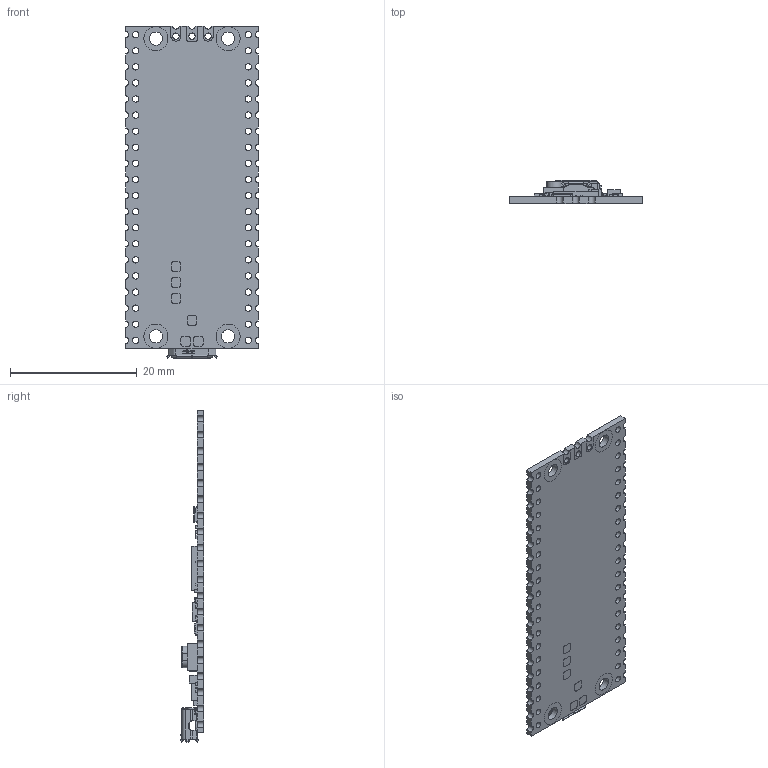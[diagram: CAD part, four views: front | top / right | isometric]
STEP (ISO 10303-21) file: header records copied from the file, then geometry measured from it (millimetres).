
FILE_DESCRIPTION(/* description */ (''),/* implementation_level */ '2;1');
FILE_NAME(/* name */ 'Pico.step',/* time_stamp */ '2024-01-13T11:22:08+01:00',/* author */ (''),/* organization */ (''),/* preprocessor_version */ 'ST-DEVELOPER v20',/* originating_system */ 'Autodesk Translation Framework v12.14.0.127',/* authorisation */ '');
FILE_SCHEMA (('AUTOMOTIVE_DESIGN { 1 0 10303 214 3 1 1 }'));
Products named in the file (45): Pico; PCB, Raspberry Pi Pico-R3; MicroUSB Port, Raspberry Pi Pico-R3; U2, RT6150B-33GQW, Buck Boost Converter, Raspberry Pi Pico-R3; SMD Resistor, Configurable, Raspberry Pi Pico-R3_R5; SW1, Tact Switch, Raspberry Pi Pico-R3; D1, Diode, Schottky, Raspberry Pi Pico-R3; D2, QSME-C194, LED, Raspberry Pi Pico-R3; U3, W25Q16JVUXIQ, Serial NOR Flash 16 Mbit, Raspberry Pi Pico-R3; Q1, MOSFET, DMG1012T, Raspberry Pi Pico-R3; SMD Resistor, Configurable, Raspberry Pi Pico-R3_R2; SMD Resistor, Configurable, Raspberry Pi Pico-R3_R3; SMD Resistor, Configurable, Raspberry Pi Pico-R3_R1; RP2040 Microcontroller, Raspberry Pi Pico-R3; L1, Inductor, Raspberry Pi Pico-R3; X1, X12M000000S096, 12 Mhz Crystal Resonator, Raspberry Pi Pico-R3; SMD Resistor, Configurable, Raspberry Pi Pico-R3_R4; SMD Resistor, Configurable, Raspberry Pi Pico-R3_R6; SMD Resistor, Configurable, Raspberry Pi Pico-R3_R7; SMD Resistor, Configurable, Raspberry Pi Pico-R3_R9; SMD Resistor, Configurable, Raspberry Pi Pico-R3_R10; SMD Resistor, Configurable, Raspberry Pi Pico-R3_R11; SMD Resistor, Configurable, Raspberry Pi Pico-R3_R12; SMD Resistor, Configurable, Raspberry Pi Pico-R3_R8; SMD Resistor, Configurable, Raspberry Pi Pico-R3_R13; SMD Resistor, Configurable, Raspberry Pi Pico-R3_R14; SMD Resistor, Configurable, Raspberry Pi Pico-R3_R15; SMD Capacitor, Configurable, Raspberry Pi Pico-R3_C1; SMD Capacitor, Configurable, Raspberry Pi Pico-R3_C13; SMD Capacitor, Configurable, Raspberry Pi Pico-R3_C5; SMD Capacitor, Configurable, Raspberry Pi Pico-R3_C8; SMD Capacitor, Configurable, Raspberry Pi Pico-R3_C4; SMD Capacitor, Configurable, Raspberry Pi Pico-R3_C3; SMD Capacitor, Configurable, Raspberry Pi Pico-R3_C16; SMD Capacitor, Configurable, Raspberry Pi Pico-R3_C11; SMD Capacitor, Configurable, Raspberry Pi Pico-R3_C17; SMD Capacitor, Configurable, Raspberry Pi Pico-R3_C18; SMD Capacitor, Configurable, Raspberry Pi Pico-R3_C7; SMD Capacitor, Configurable, Raspberry Pi Pico-R3_C9; SMD Capacitor, Configurable, Raspberry Pi Pico-R3_C6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
Assembly tree (44 placements, depth 2):
  Pico
    PCB, Raspberry Pi Pico-R3
    MicroUSB Port, Raspberry Pi Pico-R3
    U2, RT6150B-33GQW, Buck Boost Converter, Raspberry Pi Pico-R3
    SMD Resistor, Configurable, Raspberry Pi Pico-R3_R5
    SW1, Tact Switch, Raspberry Pi Pico-R3
    D1, Diode, Schottky, Raspberry Pi Pico-R3
    D2, QSME-C194, LED, Raspberry Pi Pico-R3
    U3, W25Q16JVUXIQ, Serial NOR Flash 16 Mbit, Raspberry Pi Pico-R3
    Q1, MOSFET, DMG1012T, Raspberry Pi Pico-R3
    SMD Resistor, Configurable, Raspberry Pi Pico-R3_R2
    SMD Resistor, Configurable, Raspberry Pi Pico-R3_R3
    SMD Resistor, Configurable, Raspberry Pi Pico-R3_R1
    RP2040 Microcontroller, Raspberry Pi Pico-R3
    L1, Inductor, Raspberry Pi Pico-R3
    X1, X12M000000S096, 12 Mhz Crystal Resonator, Raspberry Pi Pico-R3
    SMD Resistor, Configurable, Raspberry Pi Pico-R3_R4
    SMD Resistor, Configurable, Raspberry Pi Pico-R3_R6
    SMD Resistor, Configurable, Raspberry Pi Pico-R3_R7
    SMD Resistor, Configurable, Raspberry Pi Pico-R3_R9
    SMD Resistor, Configurable, Raspberry Pi Pico-R3_R10
    SMD Resistor, Configurable, Raspberry Pi Pico-R3_R11
    SMD Resistor, Configurable, Raspberry Pi Pico-R3_R12
    SMD Resistor, Configurable, Raspberry Pi Pico-R3_R8
    SMD Resistor, Configurable, Raspberry Pi Pico-R3_R13
    SMD Resistor, Configurable, Raspberry Pi Pico-R3_R14
    SMD Resistor, Configurable, Raspberry Pi Pico-R3_R15
    SMD Capacitor, Configurable, Raspberry Pi Pico-R3_C1
    SMD Capacitor, Configurable, Raspberry Pi Pico-R3_C13
    SMD Capacitor, Configurable, Raspberry Pi Pico-R3_C5
    SMD Capacitor, Configurable, Raspberry Pi Pico-R3_C8
    SMD Capacitor, Configurable, Raspberry Pi Pico-R3_C4
    SMD Capacitor, Configurable, Raspberry Pi Pico-R3_C3
    SMD Capacitor, Configurable, Raspberry Pi Pico-R3_C16
    SMD Capacitor, Configurable, Raspberry Pi Pico-R3_C11
    SMD Capacitor, Configurable, Raspberry Pi Pico-R3_C17
    SMD Capacitor, Configurable, Raspberry Pi Pico-R3_C18
    SMD Capacitor, Configurable, Raspberry Pi Pico-R3_C7
    SMD Capacitor, Configurable, Raspberry Pi Pico-R3_C9
    SMD Capacitor, Configurable, Raspberry Pi Pico-R3_C6
    SMD Capacitor, Configurable, Raspberry Pi Pico-R3_C10
    SMD Capacitor, Configurable, Raspberry Pi Pico-R3_C15
    SMD Capacitor, Configurable, Raspberry Pi Pico-R3_C12
    SMD Capacitor, Configurable, Raspberry Pi Pico-R3_C2
    SMD Capacitor, Configurable, Raspberry Pi Pico-R3_C14
Bounding box: 21 x 3.7 x 52.43 mm (x, y, z)
Volume: 1159.7 mm3; surface area: 3059.6 mm2
Topology: 116 solids, 116 shells, 2307 faces, 5583 edges, 3488 vertices
Faces by surface type: plane 1268, cylinder 701, torus 242, bspline 72, sphere 24
Full cylindrical faces by diameter (mm): 1 x43, 2.1 x4, 3.8 x8
Entity records: 70450 total; most frequent: CARTESIAN_POINT 13716, DIRECTION 11734, ORIENTED_EDGE 11124, EDGE_CURVE 5562, AXIS2_PLACEMENT_3D 3986, LINE 3762, VECTOR 3762, VERTEX_POINT 3488
